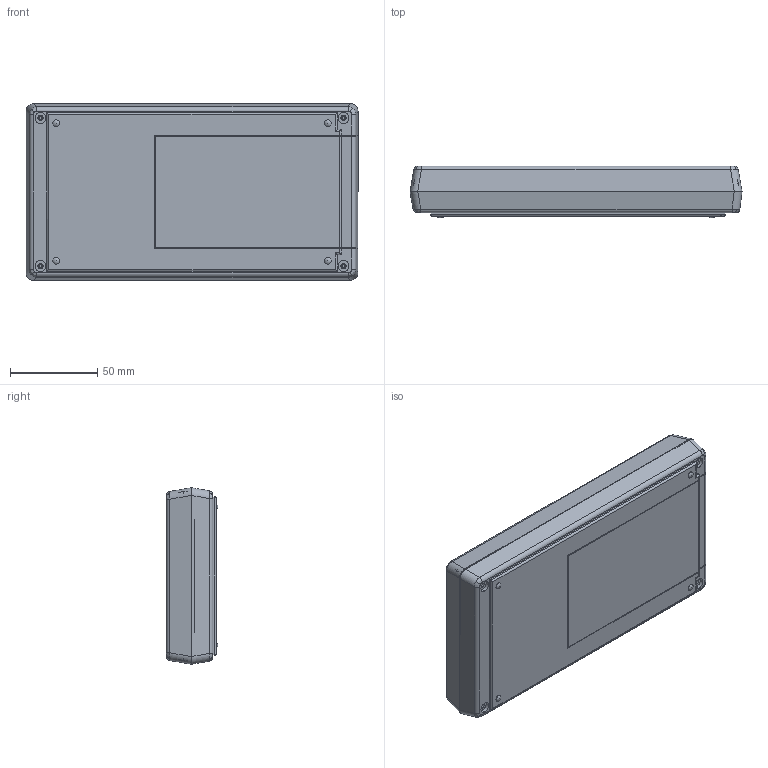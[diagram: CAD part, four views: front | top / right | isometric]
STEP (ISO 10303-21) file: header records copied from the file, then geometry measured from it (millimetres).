
FILE_DESCRIPTION (( 'STEP AP214' ), '1' );
FILE_NAME ('100-41-NO-F.STEP', '2019-11-30T00:37:54', ( 'Rudy' ), ( '' ), 'SwSTEP 2.0', 'SolidWorks 2014', '' );
FILE_SCHEMA (( 'AUTOMOTIVE_DESIGN' ));
Length unit declared in the file: inch
Products named in the file (3): 100-04-flush Top; 100-01 SHALLOW BOT-NO BAT; 100-41-NO-F
Assembly tree (2 placements, depth 2):
  100-41-NO-F
    100-01 SHALLOW BOT-NO BAT
    100-04-flush Top
Bounding box: 190.6 x 29.7 x 101.4 mm (x, y, z)
Volume: 125511.8 mm3; surface area: 108146 mm2
Topology: 2 solids, 2 shells, 419 faces, 1084 edges, 670 vertices
Faces by surface type: plane 196, cylinder 141, bspline 44, cone 34, sphere 4
Entity records: 14053 total; most frequent: CARTESIAN_POINT 4439, ORIENTED_EDGE 2096, DIRECTION 1814, EDGE_CURVE 1048, VERTEX_POINT 662, LINE 614, VECTOR 614, AXIS2_PLACEMENT_3D 600
